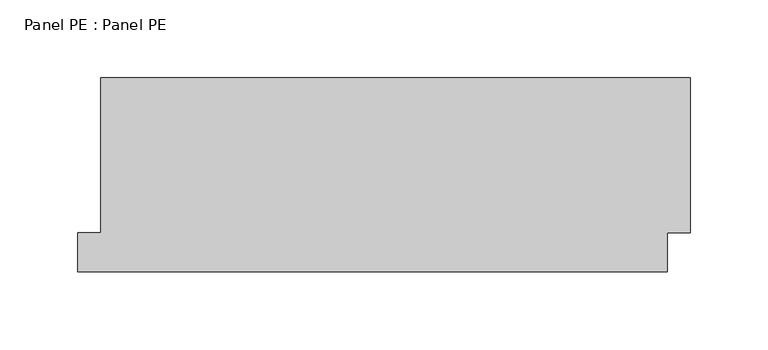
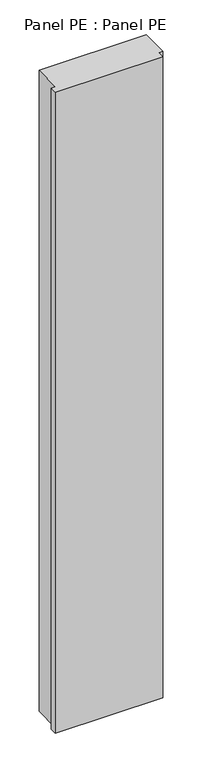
"""IFC4 building model written with IfcOpenShell, lengths in millimetres: plate geometry, Panel PE : Panel PE."""

import ifcopenshell
import ifcopenshell.guid

model = None  # the IFC model being written
_history = None  # IfcOwnerHistory: only IFC2X3 demands one
_inside = {}  # id of a spatial element -> (the spatial element, [elements in it])
_under = {}  # id of a project, library or spatial element -> (it, [spatial elements below it])
_declared = {}  # id of a project -> (the project, [libraries it declares])
_typed = {}  # id of a type object -> (the type object, [elements of that type])
_made_of = {}  # id of a material, layer set ... -> (it, [elements and type objects made of it])


def new_model(schema):
    """Start an empty IFC model of exactly this schema.

    Asked for "IFC4X3", IfcOpenShell would pick the latest addendum, in which some entities
    have other attributes; the version numbers below select the first issue.
    IFC2X3 requires an IfcOwnerHistory on every rooted entity: one is made here for all.
    """
    global model, _history
    if schema == "IFC4X3":
        model = ifcopenshell.file(schema_version=(4, 3, 0, 0))
    else:
        model = ifcopenshell.file(schema=schema)
    _inside.clear()
    _under.clear()
    _declared.clear()
    _typed.clear()
    _made_of.clear()
    _history = None
    if model.schema == "IFC2X3":
        org = make("IfcOrganization", Name="unknown")
        user = make(
            "IfcPersonAndOrganization",
            ThePerson=make("IfcPerson", FamilyName="unknown"),
            TheOrganization=org,
        )
        app = make(
            "IfcApplication",
            ApplicationDeveloper=org,
            Version="unknown",
            ApplicationFullName="unknown",
            ApplicationIdentifier="unknown",
        )
        _history = make(
            "IfcOwnerHistory",
            OwningUser=user,
            OwningApplication=app,
            ChangeAction="ADDED",
            CreationDate=0,
        )
    return model


def make(cls, **values):
    """One entity of the class cls with the attributes given. An attribute that is None is left unset."""
    return model.create_entity(
        cls, **{name: value for name, value in values.items() if value is not None}
    )


def rooted(cls, **values):
    """An entity with a GlobalId (a new one), such as an element, a storey or a relation."""
    return make(cls, GlobalId=ifcopenshell.guid.new(), OwnerHistory=_history, **values)


def si_unit(unit_type, name, prefix=None):
    """IfcSIUnit, for example si_unit("LENGTHUNIT", "METRE", prefix="MILLI")."""
    return make("IfcSIUnit", UnitType=unit_type, Prefix=prefix, Name=name)


def assignment(units):
    """IfcUnitAssignment: the units of a project."""
    return None if units is None else make("IfcUnitAssignment", Units=units)


def point(xyz):
    """IfcCartesianPoint."""
    return None if xyz is None else make("IfcCartesianPoint", Coordinates=xyz)


def direction(xyz):
    """IfcDirection."""
    return None if xyz is None else make("IfcDirection", DirectionRatios=xyz)


def frame(location, z_axis=None, x_axis=None):
    """IfcAxis2Placement3D, a coordinate frame: its origin and axes. An axis left out is left unset."""
    return make(
        "IfcAxis2Placement3D",
        Location=point(location),
        Axis=direction(z_axis),
        RefDirection=direction(x_axis),
    )


def origin():
    """The frame at (0, 0, 0) with its axes left unset."""
    return frame((0.0, 0.0, 0.0))


def origin_with_axes():
    """The frame at (0, 0, 0) with the z axis (0, 0, 1) and the x axis (1, 0, 0) written out."""
    return frame((0.0, 0.0, 0.0), z_axis=(0.0, 0.0, 1.0), x_axis=(1.0, 0.0, 0.0))


def place(relative_to, where):
    """IfcLocalPlacement: puts the frame where relative to a parent placement (None: the world)."""
    return make(
        "IfcLocalPlacement", PlacementRelTo=relative_to, RelativePlacement=where
    )


def context(
    kind, dimensions, precision=None, world=None, true_north=None, identifier=None
):
    """IfcGeometricRepresentationContext, for example the 3D "Model" context."""
    return make(
        "IfcGeometricRepresentationContext",
        ContextIdentifier=identifier,
        ContextType=kind,
        CoordinateSpaceDimension=dimensions,
        Precision=precision,
        WorldCoordinateSystem=world,
        TrueNorth=true_north,
    )


def project(units=None, contexts=None):
    """IfcProject with its units and contexts."""
    return rooted(
        "IfcProject",
        Name="project",
        RepresentationContexts=contexts,
        UnitsInContext=assignment(units),
    )


def spatial(cls, under=None, at=None, **own):
    """A site, building, storey or space (cls), placed at a placement, below another one or the project."""
    s = rooted(cls, ObjectPlacement=at, **own)
    if under is not None:
        _under.setdefault(under.id(), (under, []))[1].append(s)
    return s


def polyline(points):
    """IfcPolyline through the points."""
    return make("IfcPolyline", Points=[point(p) for p in points])


def outline(outer, holes=None, kind="AREA"):
    """IfcArbitraryClosedProfileDef: a profile drawn as a closed curve; with holes, ...WithVoids."""
    if holes is None:
        return make("IfcArbitraryClosedProfileDef", ProfileType=kind, OuterCurve=outer)
    return make(
        "IfcArbitraryProfileDefWithVoids",
        ProfileType=kind,
        OuterCurve=outer,
        InnerCurves=holes,
    )


def extrude(swept, where, along, depth):
    """IfcExtrudedAreaSolid: the profile swept, set in the frame where, extruded along a direction by depth."""
    return make(
        "IfcExtrudedAreaSolid",
        SweptArea=swept,
        Position=where,
        ExtrudedDirection=direction(along),
        Depth=depth,
    )


def shape(context_of_items, identifier, shape_type, items):
    """IfcShapeRepresentation: the items that make up one representation, for example the "Body"."""
    return make(
        "IfcShapeRepresentation",
        ContextOfItems=context_of_items,
        RepresentationIdentifier=identifier,
        RepresentationType=shape_type,
        Items=items,
    )


def source(mapping_origin, context_of_items, identifier, shape_type, items):
    """IfcRepresentationMap: a shape defined once, which mapped items show again and again."""
    return make(
        "IfcRepresentationMap",
        MappingOrigin=mapping_origin,
        MappedRepresentation=shape(context_of_items, identifier, shape_type, items),
    )


def transform(
    local_origin,
    x_axis=None,
    y_axis=None,
    z_axis=None,
    scale=None,
    scale2=None,
    scale3=None,
    uniform=True,
):
    """IfcCartesianTransformationOperator3D, or its non-uniform kind. x_axis, y_axis, z_axis: its Axis1, 2, 3."""
    if uniform:
        return make(
            "IfcCartesianTransformationOperator3D",
            Axis1=direction(x_axis),
            Axis2=direction(y_axis),
            LocalOrigin=point(local_origin),
            Scale=scale,
            Axis3=direction(z_axis),
        )
    return make(
        "IfcCartesianTransformationOperator3DnonUniform",
        Axis1=direction(x_axis),
        Axis2=direction(y_axis),
        LocalOrigin=point(local_origin),
        Scale=scale,
        Axis3=direction(z_axis),
        Scale2=scale2,
        Scale3=scale3,
    )


def mapped(mapping_source, mapping_target):
    """IfcMappedItem: shows the shape of a source again, moved by a transform."""
    return make(
        "IfcMappedItem", MappingSource=mapping_source, MappingTarget=mapping_target
    )


def made_of(thing, what):
    """Note that an element or type object is made of a material, layer set ...; save() writes the relation."""
    if what is not None:
        _made_of.setdefault(what.id(), (what, []))[1].append(thing)
    return thing


def element(
    cls,
    number,
    at=None,
    inside=None,
    cuts=None,
    type_object=None,
    material=None,
    context=None,
    identifier="Body",
    shape_type=None,
    held_by="IfcProductDefinitionShape",
    body=None,
    shapes=None,
    **own,
):
    """One element of the class cls, such as IfcWall. Its Tag is "e" and its number.

    at: its placement. inside: the storey or other place that contains it. cuts: it is an
    opening in that element (IfcRelVoidsElement). A single representation is given by context,
    identifier, shape_type and body (its items); several are given by shapes. held_by: the class
    of the entity that holds the representations. save() writes the other relations.
    """
    e = rooted(cls, Tag="e%d" % number, ObjectPlacement=at, **own)
    if body is not None:
        shapes = [shape(context, identifier, shape_type, body)]
    if shapes is not None:
        e.Representation = make(held_by, Representations=shapes)
    if inside is not None:
        _inside.setdefault(inside.id(), (inside, []))[1].append(e)
    if cuts is not None:
        rooted(
            "IfcRelVoidsElement", RelatingBuildingElement=cuts, RelatedOpeningElement=e
        )
    if type_object is not None:
        _typed.setdefault(type_object.id(), (type_object, []))[1].append(e)
    return made_of(e, material)


def aggregate(whole, parts):
    """IfcRelAggregates: a whole, such as a stair, and the parts it consists of."""
    return rooted("IfcRelAggregates", RelatingObject=whole, RelatedObjects=parts)


def save(model, path):
    """Write the relations noted so far, then the file.

    IfcRelAggregates (storeys below a building ...), IfcRelContainedInSpatialStructure (elements
    in a storey), IfcRelDefinesByType, IfcRelAssociatesMaterial and IfcRelDeclares: one each for
    every whole, place, type object, material and project.
    """
    for whole, parts in _under.values():
        aggregate(whole, parts)
    for where, things in _inside.values():
        rooted(
            "IfcRelContainedInSpatialStructure",
            RelatedElements=things,
            RelatingStructure=where,
        )
    for kind, things in _typed.values():
        rooted("IfcRelDefinesByType", RelatedObjects=things, RelatingType=kind)
    for what, things in _made_of.values():
        rooted("IfcRelAssociatesMaterial", RelatedObjects=things, RelatingMaterial=what)
    for by, libraries in _declared.values():
        rooted("IfcRelDeclares", RelatingContext=by, RelatedDefinitions=libraries)
    model.write(path)


def panel_pe_panel_pe_e445d399(model_context):
    return source(origin(), model_context, "Body", "SweptSolid", [
        extrude(outline(polyline([(189.9999998, 62.5), (189.9999998, -37.5), (174.9999998, -37.5), (174.9999998, -62.5), (-204.9999998, -62.5), (-204.9999998, -37.5), (-189.9999998, -37.5), (-189.9999998, 62.5), (189.9999998, 62.5)])), origin_with_axes(), (0.0, 0.0, 1.0), 2400.0),
    ])


if __name__ == "__main__":
    model = new_model("IFC4")
    model_context = context("Model", 3, world=origin())
    ifc_project = project(units=[si_unit("LENGTHUNIT", "METRE", prefix="MILLI")], contexts=[model_context])
    site = spatial("IfcSite", under=ifc_project)
    building = spatial("IfcBuilding", under=site)
    placement = place(None, origin())
    panel_pe_panel_pe_shape = panel_pe_panel_pe_e445d399(model_context)
    element("IfcPlate", 1, ObjectType="Panel PE : Panel PE", at=placement, inside=building, context=model_context, shape_type="MappedRepresentation", body=[
        mapped(panel_pe_panel_pe_shape, transform((0.0, 0.0, 0.0), x_axis=(1.0, 0.0, 0.0), y_axis=(0.0, 1.0, 0.0), z_axis=(0.0, 0.0, 1.0))),
    ])
    save(model, "model.ifc")
